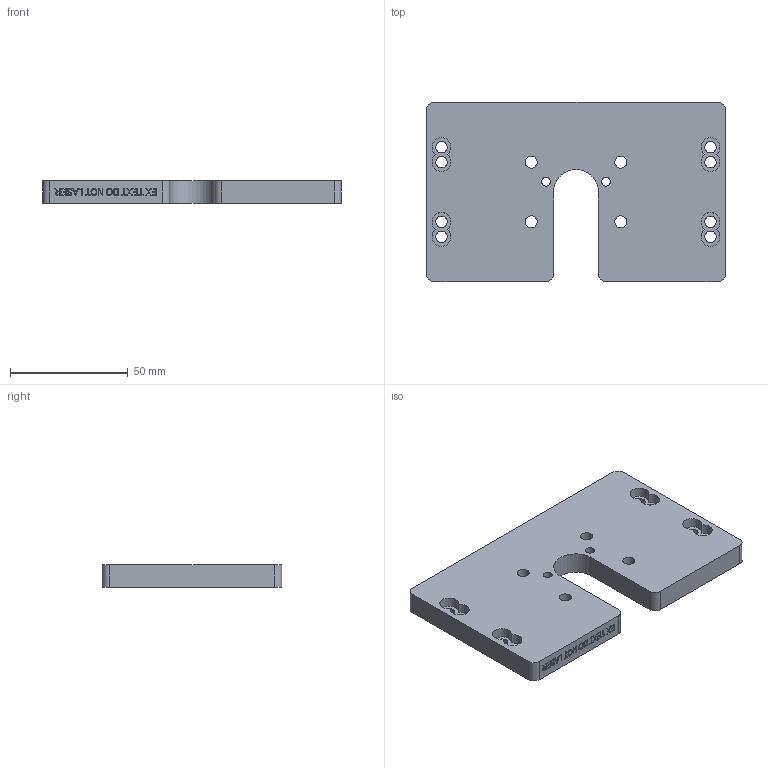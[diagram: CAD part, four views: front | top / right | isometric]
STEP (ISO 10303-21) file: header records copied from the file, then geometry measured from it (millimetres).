
FILE_DESCRIPTION (( 'STEP AP214' ), '1' );
FILE_NAME ('AFSB-614-S.STEP', '2018-12-18T17:42:49', ( '' ), ( '' ), 'SwSTEP 2.0', 'SolidWorks 2018', '' );
FILE_SCHEMA (( 'AUTOMOTIVE_DESIGN' ));
Length unit declared in the file: inch
Products named in the file (2): AFSB-614-S
Bounding box: 127 x 76.2 x 9.53 mm (x, y, z)
Volume: 80332 mm3; surface area: 23932.2 mm2
Topology: 1 solids, 1 shells, 283 faces, 768 edges, 512 vertices
Faces by surface type: plane 164, bspline 60, cylinder 59
Entity records: 11867 total; most frequent: CARTESIAN_POINT 4745, ORIENTED_EDGE 1536, DIRECTION 1216, EDGE_CURVE 768, LINE 530, VECTOR 530, VERTEX_POINT 512, AXIS2_PLACEMENT_3D 343
